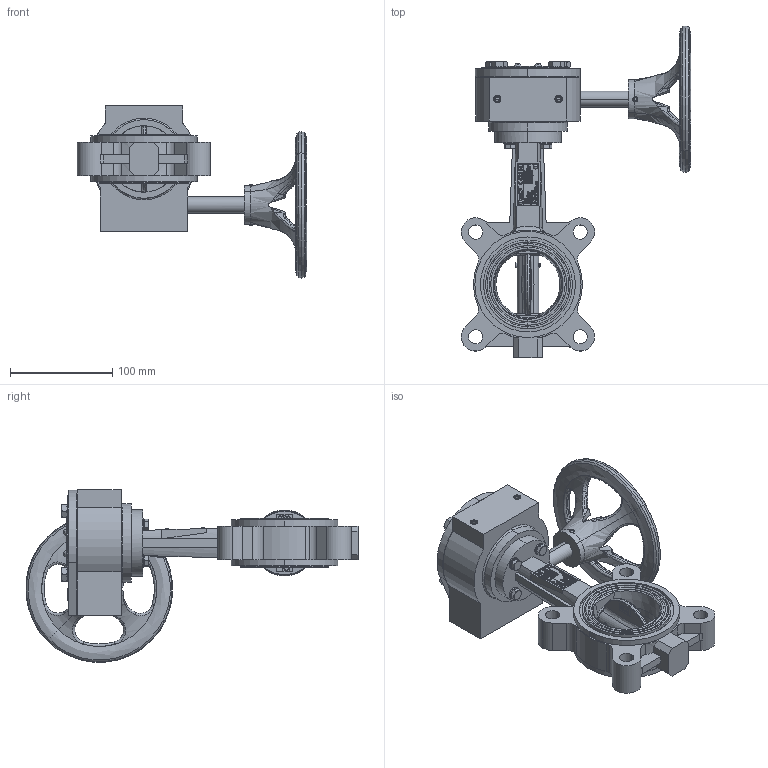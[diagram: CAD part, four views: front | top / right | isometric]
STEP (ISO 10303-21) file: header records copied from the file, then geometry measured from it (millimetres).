
FILE_DESCRIPTION (( 'STEP AP214' ), '1' );
FILE_NAME ('VPG464X-08XX0065.step', '2022-06-30T08:15:54', ( '' ), ( '' ), 'SwSTEP 2.0', 'SolidWorks 2020', '' );
FILE_SCHEMA (( 'AUTOMOTIVE_DESIGN' ));
Length unit declared in the file: millimetre
Products named in the file (1): VPG464X-08XX0065
Bounding box: 224.71 x 325.23 x 168.73 mm (x, y, z)
Surface area: 192500.3 mm2 (no closed solid volume)
Topology: 0 solids, 95 shells, 975 faces, 6393 edges, 5379 vertices
Faces by surface type: plane 545, bspline 184, cylinder 163, cone 79, torus 4
Entity records: 96577 total; most frequent: CARTESIAN_POINT 42247, ORIENTED_EDGE 8361, DIRECTION 7052, EDGE_CURVE 6375, VERTEX_POINT 5379, VECTOR 4008, LINE 4008, B_SPLINE_CURVE_WITH_KNOTS 1550
